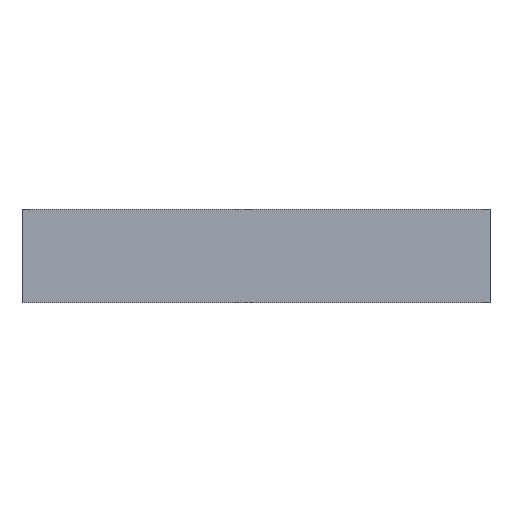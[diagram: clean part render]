
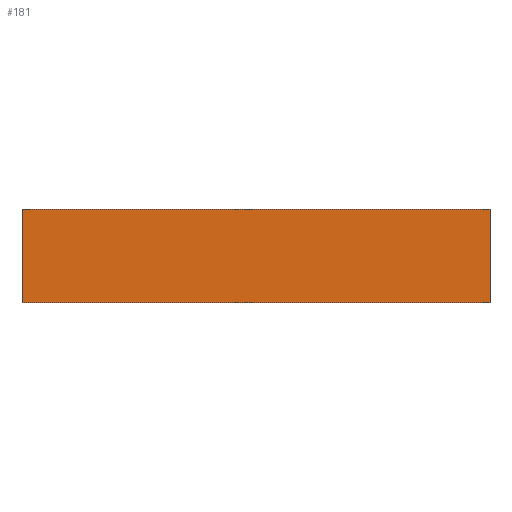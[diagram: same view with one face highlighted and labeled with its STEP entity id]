
A CAD part, front view. The second image highlights one B-rep face of the part: STEP entity #181.
In plain terms, the highlighted planar face has unit normal (0, -1, 0).
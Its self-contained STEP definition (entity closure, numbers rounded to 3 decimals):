
#3 = VECTOR ( 'NONE', #125, 1000. ) ;
#5 = CARTESIAN_POINT ( 'NONE',  ( -10., -125., 4. ) ) ;
#9 = CARTESIAN_POINT ( 'NONE',  ( 10., -125., 4. ) ) ;
#22 = CARTESIAN_POINT ( 'NONE',  ( 10., -125., 4. ) ) ;
#36 = VERTEX_POINT ( 'NONE', #9 ) ;
#38 = VERTEX_POINT ( 'NONE', #211 ) ;
#42 = FACE_OUTER_BOUND ( 'NONE', #298, .T. ) ;
#68 = LINE ( 'NONE', #121, #192 ) ;
#85 = EDGE_CURVE ( 'NONE', #188, #38, #68, .T. ) ;
#88 = VERTEX_POINT ( 'NONE', #116 ) ;
#93 = CARTESIAN_POINT ( 'NONE',  ( -10., -125., 0. ) ) ;
#100 = VECTOR ( 'NONE', #145, 1000. ) ;
#108 = EDGE_CURVE ( 'NONE', #36, #38, #332, .T. ) ;
#116 = CARTESIAN_POINT ( 'NONE',  ( -10., -125., 4. ) ) ;
#121 = CARTESIAN_POINT ( 'NONE',  ( -10., -125., 0. ) ) ;
#125 = DIRECTION ( 'NONE',  ( 1., 0., 0. ) ) ;
#128 = DIRECTION ( 'NONE',  ( 0., 0., -1. ) ) ;
#133 = ORIENTED_EDGE ( 'NONE', *, *, #231, .T. ) ;
#138 = ORIENTED_EDGE ( 'NONE', *, *, #108, .F. ) ;
#140 = DIRECTION ( 'NONE',  ( 0., 1., 0. ) ) ;
#142 = VECTOR ( 'NONE', #128, 1000. ) ;
#145 = DIRECTION ( 'NONE',  ( 0., 0., -1. ) ) ;
#166 = DIRECTION ( 'NONE',  ( 0., 0., 1. ) ) ;
#181 = ADVANCED_FACE ( 'NONE', ( #42 ), #247, .F. ) ;
#188 = VERTEX_POINT ( 'NONE', #93 ) ;
#191 = ORIENTED_EDGE ( 'NONE', *, *, #309, .F. ) ;
#192 = VECTOR ( 'NONE', #308, 1000. ) ;
#207 = LINE ( 'NONE', #5, #142 ) ;
#211 = CARTESIAN_POINT ( 'NONE',  ( 10., -125., 0. ) ) ;
#231 = EDGE_CURVE ( 'NONE', #88, #188, #207, .T. ) ;
#247 = PLANE ( 'NONE',  #316 ) ;
#261 = LINE ( 'NONE', #310, #3 ) ;
#265 = ORIENTED_EDGE ( 'NONE', *, *, #85, .T. ) ;
#298 = EDGE_LOOP ( 'NONE', ( #265, #138, #191, #133 ) ) ;
#305 = CARTESIAN_POINT ( 'NONE',  ( -10., -125., 4. ) ) ;
#308 = DIRECTION ( 'NONE',  ( 1., 0., 0. ) ) ;
#309 = EDGE_CURVE ( 'NONE', #88, #36, #261, .T. ) ;
#310 = CARTESIAN_POINT ( 'NONE',  ( -10., -125., 4. ) ) ;
#316 = AXIS2_PLACEMENT_3D ( 'NONE', #305, #140, #166 ) ;
#332 = LINE ( 'NONE', #22, #100 ) ;
